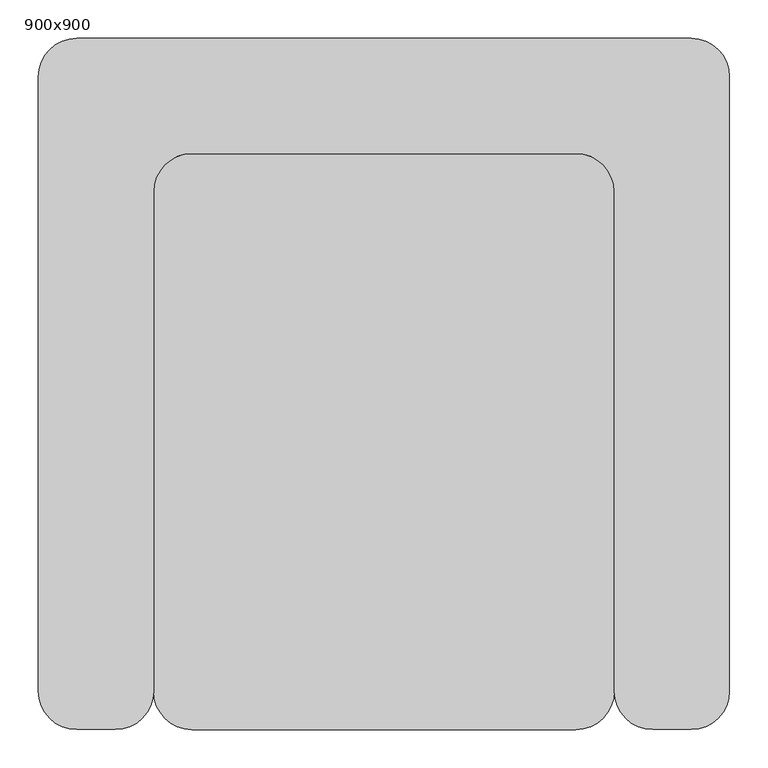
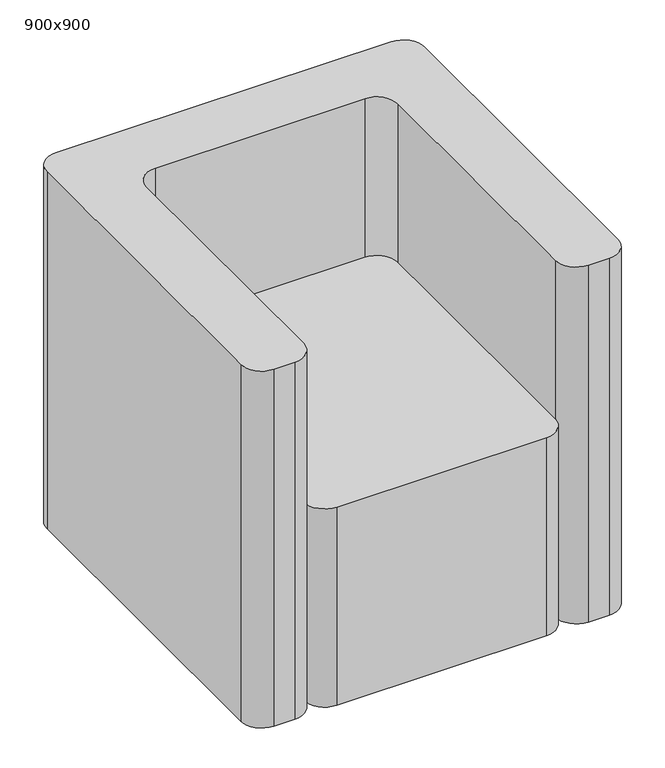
"""IFC4 building model written with IfcOpenShell, lengths in millimetres: furniture geometry, Fu_кресло_большое_LEG : 900x900."""

from ifc_helpers import new_model, si_unit, point, frame_2d, origin, origin_with_axes, place, context, project, spatial, polyline, circle_curve, trimmed, segment, composite_curve, outline, extrude, source, transform, mapped, element, save


def furniture_900x900_cbd4ee99(model_context):
    return source(origin(), model_context, "Body", "SweptSolid", [
        extrude(outline(composite_curve([segment(trimmed(circle_curve(frame_2d((-135.7, 449.9263613)), 50.0), [point((-185.7, 449.9263613))], [point((-135.7, 499.9263613))], False, "CARTESIAN"), True, "CONTINUOUS"), segment(polyline([(-135.7, 499.9263613), (364.3, 499.9263613)]), True, "CONTINUOUS"), segment(trimmed(circle_curve(frame_2d((364.3, 449.9263613)), 50.0), [point((364.3, 499.9263613))], [point((414.3, 449.9263613))], False, "CARTESIAN"), True, "CONTINUOUS"), segment(polyline([(414.3, 449.9263613), (414.3, -200.0736387)]), True, "CONTINUOUS"), segment(trimmed(circle_curve(frame_2d((364.3, -200.0736387)), 50.0), [point((414.3, -200.0736387))], [point((364.3, -250.0736387))], False, "CARTESIAN"), True, "CONTINUOUS"), segment(polyline([(364.3, -250.0736387), (-135.7, -250.0736387)]), True, "CONTINUOUS"), segment(trimmed(circle_curve(frame_2d((-135.7, -200.0736387)), 50.0), [point((-135.7, -250.0736387))], [point((-185.7, -200.0736387))], False, "CARTESIAN"), True, "CONTINUOUS"), segment(polyline([(-185.7, -200.0736387), (-185.7, 449.9263613)]), True, "CONTINUOUS")], self_intersect=False)), origin_with_axes(), (0.0, 0.0, 1.0), 500.0),
        extrude(outline(composite_curve([segment(trimmed(circle_curve(frame_2d((514.3, 599.9263613)), 50.0), [point((514.3, 649.9263613))], [point((564.3, 599.9263613))], False, "CARTESIAN"), True, "CONTINUOUS"), segment(polyline([(564.3, 599.9263613), (564.3, -200.0736387)]), True, "CONTINUOUS"), segment(trimmed(circle_curve(frame_2d((514.3, -200.0736387)), 50.0), [point((564.3, -200.0736387))], [point((514.3, -250.0736387))], False, "CARTESIAN"), True, "CONTINUOUS"), segment(polyline([(514.3, -250.0736387), (464.3, -250.0736387)]), True, "CONTINUOUS"), segment(trimmed(circle_curve(frame_2d((464.3, -200.0736387)), 50.0), [point((464.3, -250.0736387))], [point((414.3, -200.0736387))], False, "CARTESIAN"), True, "CONTINUOUS"), segment(polyline([(414.3, -200.0736387), (414.3, 449.9263613)]), True, "CONTINUOUS"), segment(trimmed(circle_curve(frame_2d((364.3, 449.9263613)), 50.0), [point((414.3, 449.9263613))], [point((364.3, 499.9263613))], True, "CARTESIAN"), True, "CONTINUOUS"), segment(polyline([(364.3, 499.9263613), (-135.7, 499.9263613)]), True, "CONTINUOUS"), segment(trimmed(circle_curve(frame_2d((-135.7, 449.9263613)), 50.0), [point((-135.7, 499.9263613))], [point((-185.7, 449.9263613))], True, "CARTESIAN"), True, "CONTINUOUS"), segment(polyline([(-185.7, 449.9263613), (-185.7, -200.0736387)]), True, "CONTINUOUS"), segment(trimmed(circle_curve(frame_2d((-235.7, -200.0736387)), 50.0), [point((-185.7, -200.0736387))], [point((-235.7, -250.0736387))], False, "CARTESIAN"), True, "CONTINUOUS"), segment(polyline([(-235.7, -250.0736387), (-285.7, -250.0736387)]), True, "CONTINUOUS"), segment(trimmed(circle_curve(frame_2d((-285.7, -200.0736387)), 50.0), [point((-285.7, -250.0736387))], [point((-335.7, -200.0736387))], False, "CARTESIAN"), True, "CONTINUOUS"), segment(polyline([(-335.7, -200.0736387), (-335.7, 599.9263613)]), True, "CONTINUOUS"), segment(trimmed(circle_curve(frame_2d((-285.7, 599.9263613)), 50.0), [point((-335.7, 599.9263613))], [point((-285.7, 649.9263613))], False, "CARTESIAN"), True, "CONTINUOUS"), segment(polyline([(-285.7, 649.9263613), (514.3, 649.9263613)]), True, "CONTINUOUS")], self_intersect=False)), origin_with_axes(), (0.0, 0.0, 1.0), 900.0),
    ])


if __name__ == "__main__":
    model = new_model("IFC4")
    model_context = context("Model", 3, world=origin())
    ifc_project = project(units=[si_unit("LENGTHUNIT", "METRE", prefix="MILLI")], contexts=[model_context])
    site = spatial("IfcSite", under=ifc_project)
    building = spatial("IfcBuilding", under=site)
    placement = place(None, origin())
    furniture_900x900_shape = furniture_900x900_cbd4ee99(model_context)
    element("IfcFurniture", 1, ObjectType="Fu_кресло_большое_LEG : 900x900", at=placement, inside=building, context=model_context, shape_type="MappedRepresentation", body=[
        mapped(furniture_900x900_shape, transform((0.0, 0.0, 0.0), x_axis=(1.0, 0.0, 0.0), y_axis=(0.0, 1.0, 0.0), z_axis=(0.0, 0.0, 1.0))),
    ])
    save(model, "model.ifc")
